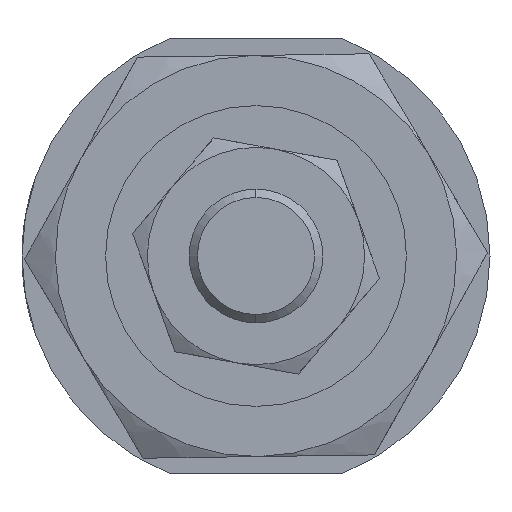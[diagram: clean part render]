
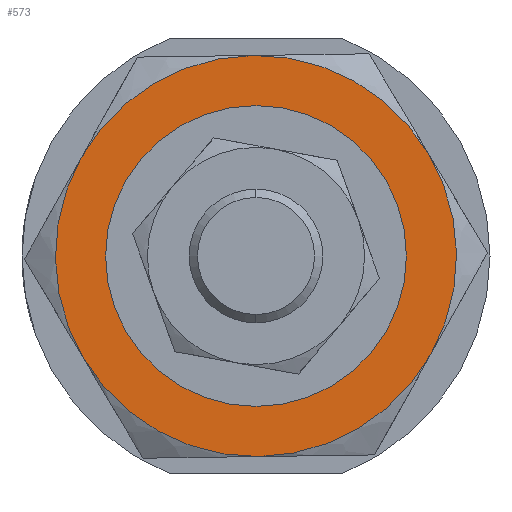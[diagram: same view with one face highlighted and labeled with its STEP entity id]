
A CAD part, left-side view. The second image highlights one B-rep face of the part: STEP entity #573.
In plain terms, the highlighted planar face has unit normal (-1, 0, 0) as drawn and (0, 0, -1) by its records, which use the part's own axes.
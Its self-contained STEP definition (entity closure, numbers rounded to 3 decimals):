
#8 = AXIS2_PLACEMENT_3D ( 'NONE', #607, #1082, #2247 ) ;
#31 = AXIS2_PLACEMENT_3D ( 'NONE', #467, #649, #2775 ) ;
#104 = CIRCLE ( 'NONE', #2471, 8.25 ) ;
#133 = EDGE_LOOP ( 'NONE', ( #894, #790, #725, #2038, #2703, #2432 ) ) ;
#150 = CARTESIAN_POINT ( 'NONE',  ( 6., 10.392, -4. ) ) ;
#155 = AXIS2_PLACEMENT_3D ( 'NONE', #1810, #388, #2050 ) ;
#247 = CIRCLE ( 'NONE', #31, 12. ) ;
#273 = DIRECTION ( 'NONE',  ( 0., 0., 1. ) ) ;
#342 = VERTEX_POINT ( 'NONE', #1749 ) ;
#346 = DIRECTION ( 'NONE',  ( 0., 0., 1. ) ) ;
#374 = DIRECTION ( 'NONE',  ( 1., 0., 0. ) ) ;
#384 = VERTEX_POINT ( 'NONE', #2425 ) ;
#388 = DIRECTION ( 'NONE',  ( 0., 0., 1. ) ) ;
#410 = EDGE_LOOP ( 'NONE', ( #1194, #1507 ) ) ;
#431 = DIRECTION ( 'NONE',  ( 1., 0., 0. ) ) ;
#467 = CARTESIAN_POINT ( 'NONE',  ( 0., 0., -4. ) ) ;
#476 = EDGE_CURVE ( 'NONE', #384, #618, #1542, .T. ) ;
#524 = VERTEX_POINT ( 'NONE', #1620 ) ;
#556 = VERTEX_POINT ( 'NONE', #150 ) ;
#573 = ADVANCED_FACE ( 'NONE', ( #1877, #2320 ), #1541, .F. ) ;
#598 = CARTESIAN_POINT ( 'NONE',  ( 6., -10.392, -4. ) ) ;
#607 = CARTESIAN_POINT ( 'NONE',  ( 0., 0., -4. ) ) ;
#618 = VERTEX_POINT ( 'NONE', #1395 ) ;
#637 = AXIS2_PLACEMENT_3D ( 'NONE', #1918, #2342, #1873 ) ;
#649 = DIRECTION ( 'NONE',  ( 0., 0., 1. ) ) ;
#725 = ORIENTED_EDGE ( 'NONE', *, *, #1986, .F. ) ;
#790 = ORIENTED_EDGE ( 'NONE', *, *, #1033, .F. ) ;
#836 = DIRECTION ( 'NONE',  ( 0., 0., 1. ) ) ;
#894 = ORIENTED_EDGE ( 'NONE', *, *, #2822, .F. ) ;
#909 = CIRCLE ( 'NONE', #637, 12. ) ;
#1033 = EDGE_CURVE ( 'NONE', #1050, #1790, #2386, .T. ) ;
#1050 = VERTEX_POINT ( 'NONE', #598 ) ;
#1082 = DIRECTION ( 'NONE',  ( 0., 0., 1. ) ) ;
#1100 = DIRECTION ( 'NONE',  ( 0., 0., 1. ) ) ;
#1194 = ORIENTED_EDGE ( 'NONE', *, *, #476, .T. ) ;
#1313 = CIRCLE ( 'NONE', #8, 12. ) ;
#1395 = CARTESIAN_POINT ( 'NONE',  ( -8.25, 0., -4. ) ) ;
#1422 = CARTESIAN_POINT ( 'NONE',  ( 12., 0., -4. ) ) ;
#1507 = ORIENTED_EDGE ( 'NONE', *, *, #1537, .T. ) ;
#1537 = EDGE_CURVE ( 'NONE', #618, #384, #104, .T. ) ;
#1541 = PLANE ( 'NONE',  #2350 ) ;
#1542 = CIRCLE ( 'NONE', #2157, 8.25 ) ;
#1556 = CARTESIAN_POINT ( 'NONE',  ( 0., 0., -4. ) ) ;
#1595 = CARTESIAN_POINT ( 'NONE',  ( 0., 0., -4. ) ) ;
#1620 = CARTESIAN_POINT ( 'NONE',  ( -12., 0., -4. ) ) ;
#1693 = CARTESIAN_POINT ( 'NONE',  ( 0., 0., -4. ) ) ;
#1720 = EDGE_CURVE ( 'NONE', #2222, #524, #909, .T. ) ;
#1749 = CARTESIAN_POINT ( 'NONE',  ( -6., -10.392, -4. ) ) ;
#1790 = VERTEX_POINT ( 'NONE', #1422 ) ;
#1796 = AXIS2_PLACEMENT_3D ( 'NONE', #1693, #273, #2400 ) ;
#1810 = CARTESIAN_POINT ( 'NONE',  ( 0., 0., -4. ) ) ;
#1873 = DIRECTION ( 'NONE',  ( 1., 0., 0. ) ) ;
#1877 = FACE_BOUND ( 'NONE', #410, .T. ) ;
#1918 = CARTESIAN_POINT ( 'NONE',  ( 0., 0., -4. ) ) ;
#1922 = EDGE_CURVE ( 'NONE', #524, #342, #247, .T. ) ;
#1986 = EDGE_CURVE ( 'NONE', #342, #1050, #2799, .T. ) ;
#2038 = ORIENTED_EDGE ( 'NONE', *, *, #1922, .F. ) ;
#2046 = AXIS2_PLACEMENT_3D ( 'NONE', #2481, #1100, #374 ) ;
#2050 = DIRECTION ( 'NONE',  ( 1., 0., 0. ) ) ;
#2157 = AXIS2_PLACEMENT_3D ( 'NONE', #2562, #836, #2728 ) ;
#2222 = VERTEX_POINT ( 'NONE', #2986 ) ;
#2247 = DIRECTION ( 'NONE',  ( 1., 0., 0. ) ) ;
#2320 = FACE_OUTER_BOUND ( 'NONE', #133, .T. ) ;
#2332 = DIRECTION ( 'NONE',  ( 1., 0., 0. ) ) ;
#2342 = DIRECTION ( 'NONE',  ( 0., 0., 1. ) ) ;
#2350 = AXIS2_PLACEMENT_3D ( 'NONE', #1556, #346, #431 ) ;
#2386 = CIRCLE ( 'NONE', #2046, 12. ) ;
#2400 = DIRECTION ( 'NONE',  ( 1., 0., 0. ) ) ;
#2425 = CARTESIAN_POINT ( 'NONE',  ( 8.25, 0., -4. ) ) ;
#2432 = ORIENTED_EDGE ( 'NONE', *, *, #3048, .F. ) ;
#2471 = AXIS2_PLACEMENT_3D ( 'NONE', #1595, #2813, #2332 ) ;
#2481 = CARTESIAN_POINT ( 'NONE',  ( 0., 0., -4. ) ) ;
#2562 = CARTESIAN_POINT ( 'NONE',  ( 0., 0., -4. ) ) ;
#2703 = ORIENTED_EDGE ( 'NONE', *, *, #1720, .F. ) ;
#2720 = CIRCLE ( 'NONE', #155, 12. ) ;
#2728 = DIRECTION ( 'NONE',  ( 1., 0., 0. ) ) ;
#2775 = DIRECTION ( 'NONE',  ( 1., 0., 0. ) ) ;
#2799 = CIRCLE ( 'NONE', #1796, 12. ) ;
#2813 = DIRECTION ( 'NONE',  ( 0., 0., 1. ) ) ;
#2822 = EDGE_CURVE ( 'NONE', #1790, #556, #2720, .T. ) ;
#2986 = CARTESIAN_POINT ( 'NONE',  ( -6., 10.392, -4. ) ) ;
#3048 = EDGE_CURVE ( 'NONE', #556, #2222, #1313, .T. ) ;
